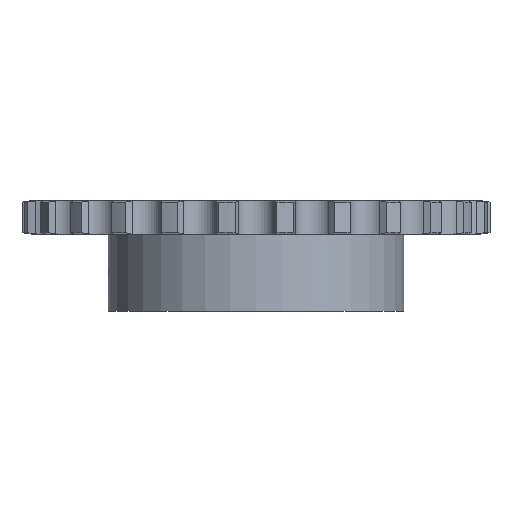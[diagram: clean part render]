
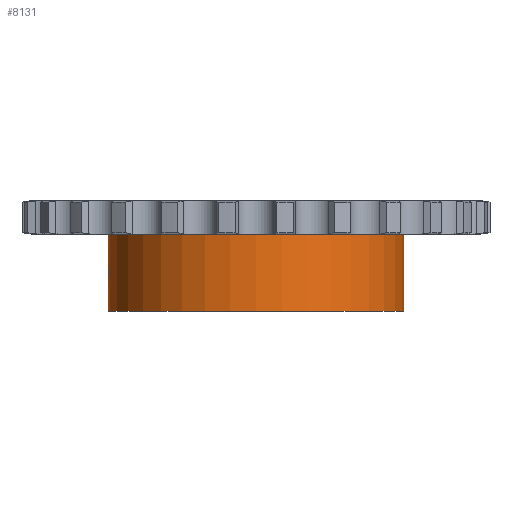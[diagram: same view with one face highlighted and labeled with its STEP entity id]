
A CAD part, front view. The second image highlights one B-rep face of the part: STEP entity #8131.
In plain terms, the highlighted cylindrical face has radius 40 mm (diameter 80 mm), a partial arc.
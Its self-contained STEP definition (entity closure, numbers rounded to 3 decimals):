
#1375=CARTESIAN_POINT('',(0.,0.,-4.55));
#1376=DIRECTION('',(0.,0.,1.));
#1377=DIRECTION('',(-1.,0.,0.));
#1378=AXIS2_PLACEMENT_3D('',#1375,#1376,#1377);
#4159=CARTESIAN_POINT('',(-40.,0.,
-12.5));
#4182=DIRECTION('',(0.,0.,1.));
#4183=VECTOR('',#4182,20.9);
#4184=CARTESIAN_POINT('',(40.,0.,-25.45));
#4185=LINE('',#4184,#4183);
#4303=CARTESIAN_POINT('',(-40.,0.,
-12.5));
#4304=CARTESIAN_POINT('',(-40.,-0.121,
-12.5));
#4305=CARTESIAN_POINT('',(-39.999,-0.361,
-12.517));
#4306=CARTESIAN_POINT('',(-39.994,-0.718,
-12.594));
#4307=CARTESIAN_POINT('',(-39.986,-1.058,
-12.721));
#4308=CARTESIAN_POINT('',(-39.977,-1.377,
-12.894));
#4309=CARTESIAN_POINT('',(-39.966,-1.666,
-13.11));
#4310=CARTESIAN_POINT('',(-39.954,-1.921,
-13.364));
#4311=CARTESIAN_POINT('',(-39.943,-2.137,
-13.652));
#4312=CARTESIAN_POINT('',(-39.933,-2.31,
-13.969));
#4313=CARTESIAN_POINT('',(-39.926,-2.435,
-14.306));
#4314=CARTESIAN_POINT('',(-39.921,-2.509,
-14.654));
#4315=CARTESIAN_POINT('',(-39.92,-2.525,
-14.884));
#4316=CARTESIAN_POINT('',(-39.92,-2.525,
-15.));
#4321=DIRECTION('',(0.,0.,1.));
#4322=VECTOR('',#4321,7.95);
#4323=CARTESIAN_POINT('',(-40.,0.,
-12.5));
#4324=LINE('',#4323,#4322);
#4328=DIRECTION('',(0.,0.,1.));
#4329=VECTOR('',#4328,7.95);
#4330=CARTESIAN_POINT('',(-40.,0.,-25.45));
#4331=LINE('',#4330,#4329);
#4335=CARTESIAN_POINT('',(-39.92,-2.525,
-15.));
#4336=CARTESIAN_POINT('',(-39.92,-2.525,
-15.089));
#4337=CARTESIAN_POINT('',(-39.921,-2.514,
-15.3));
#4338=CARTESIAN_POINT('',(-39.925,-2.453,
-15.633));
#4339=CARTESIAN_POINT('',(-39.932,-2.33,
-15.987));
#4340=CARTESIAN_POINT('',(-39.942,-2.155,
-16.321));
#4341=CARTESIAN_POINT('',(-39.954,-1.932,
-16.624));
#4342=CARTESIAN_POINT('',(-39.966,-1.667,
-16.89));
#4343=CARTESIAN_POINT('',(-39.977,-1.364,
-17.115));
#4344=CARTESIAN_POINT('',(-39.987,-1.029,
-17.293));
#4345=CARTESIAN_POINT('',(-39.995,-0.671,
-17.42));
#4346=CARTESIAN_POINT('',(-39.999,-0.324,
-17.487));
#4347=CARTESIAN_POINT('',(-40.,-0.099,
-17.5));
#4348=CARTESIAN_POINT('',(-40.,0.,
-17.5));
#4361=CARTESIAN_POINT('',(0.,0.,-25.45));
#4362=DIRECTION('',(0.,0.,-1.));
#4363=DIRECTION('',(1.,0.,0.));
#4364=AXIS2_PLACEMENT_3D('',#4361,#4362,#4363);
#4790=CARTESIAN_POINT('',(-40.,0.,-25.45));
#4791=CARTESIAN_POINT('',(40.,0.,-25.45));
#4792=VERTEX_POINT('',#4790);
#4793=VERTEX_POINT('',#4791);
#4794=CARTESIAN_POINT('',(40.,0.,-4.55));
#4795=VERTEX_POINT('',#4794);
#4796=CARTESIAN_POINT('',(-40.,0.,-4.55));
#4797=VERTEX_POINT('',#4796);
#5077=VERTEX_POINT('',#4159);
#5080=VERTEX_POINT('',#4316);
#5082=VERTEX_POINT('',#4348);
#8115=CARTESIAN_POINT('',(0.,0.,4.55));
#8116=DIRECTION('',(0.,0.,1.));
#8117=DIRECTION('',(1.,0.,0.));
#8118=AXIS2_PLACEMENT_3D('',#8115,#8116,#8117);
#8119=CYLINDRICAL_SURFACE('',#8118,40.);
#8120=ORIENTED_EDGE('',*,*,#8105,.F.);
#8121=ORIENTED_EDGE('',*,*,#7720,.T.);
#8122=ORIENTED_EDGE('',*,*,#6509,.T.);
#8123=ORIENTED_EDGE('',*,*,#7717,.F.);
#8125=ORIENTED_EDGE('',*,*,#8124,.T.);
#8126=ORIENTED_EDGE('',*,*,#7713,.T.);
#8128=ORIENTED_EDGE('',*,*,#8127,.F.);
#8129=EDGE_LOOP('',(#8120,#8121,#8122,#8123,#8125,#8126,#8128));
#8130=FACE_OUTER_BOUND('',#8129,.F.);
#8131=ADVANCED_FACE('',(#8130),#8119,.T.);
#1379=CIRCLE('',#1378,40.);
#4317=B_SPLINE_CURVE_WITH_KNOTS('',3,(#4303,#4304,#4305,#4306,#4307,#4308,#4309,
#4310,#4311,#4312,#4313,#4314,#4315,#4316),.UNSPECIFIED.,.F.,.F.,(4,1,1,1,1,1,1,
1,1,1,1,4),(0.,0.091,0.182,0.273,
0.364,0.455,0.545,0.636,
0.727,0.818,0.909,1.),.UNSPECIFIED.);
#4349=B_SPLINE_CURVE_WITH_KNOTS('',3,(#4335,#4336,#4337,#4338,#4339,#4340,#4341,
#4342,#4343,#4344,#4345,#4346,#4347,#4348),.UNSPECIFIED.,.F.,.F.,(4,1,1,1,1,1,1,
1,1,1,1,4),(0.,0.071,0.166,0.261,
0.356,0.451,0.545,0.64,
0.735,0.83,0.925,1.),.UNSPECIFIED.);
#4365=CIRCLE('',#4364,40.);
#6509=EDGE_CURVE('',#4797,#4795,#1379,.T.);
#7713=EDGE_CURVE('',#4792,#5082,#4331,.T.);
#7717=EDGE_CURVE('',#4793,#4795,#4185,.T.);
#7720=EDGE_CURVE('',#5077,#4797,#4324,.T.);
#8105=EDGE_CURVE('',#5077,#5080,#4317,.T.);
#8124=EDGE_CURVE('',#4793,#4792,#4365,.T.);
#8127=EDGE_CURVE('',#5080,#5082,#4349,.T.);
